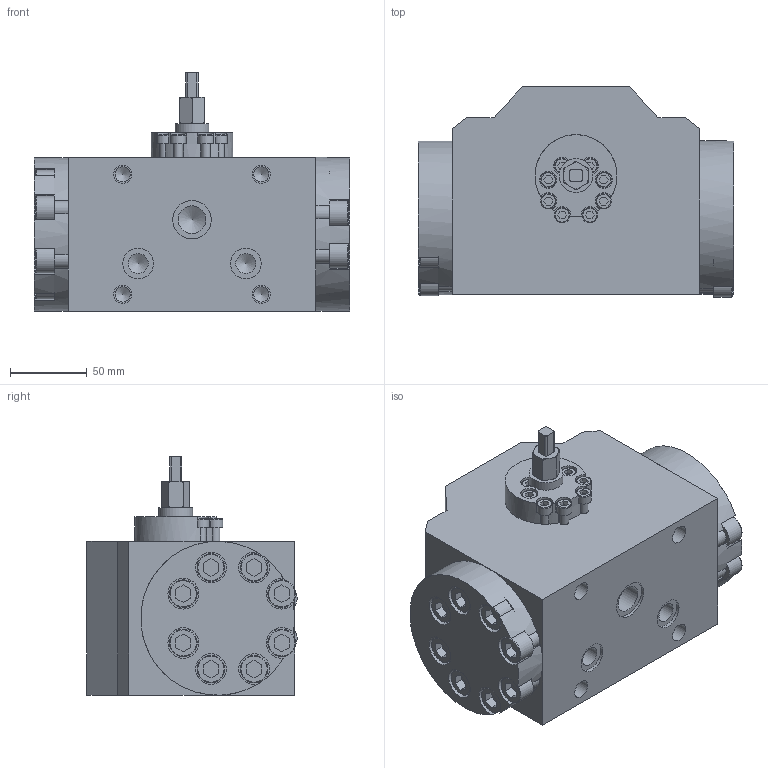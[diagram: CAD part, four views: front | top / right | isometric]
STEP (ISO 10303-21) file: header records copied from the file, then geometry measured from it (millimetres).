
FILE_DESCRIPTION(/* description */ (''),/* implementation_level */ '2;1');
FILE_NAME(/* name */ '7-3.prt.stp',/* time_stamp */ '2023-05-03T13:21:43+08:00',/* author */ (''),/* organization */ (''),/* preprocessor_version */ 'ST-DEVELOPER v16.7',/* originating_system */ 'SIEMENS PLM Software NX 12.0',/* authorisation */ '');
FILE_SCHEMA (('AUTOMOTIVE_DESIGN { 1 0 10303 214 3 1 1 1 }'));
Length unit declared in the file: millimetre
Products named in the file (1): 7-3
Bounding box: 205 x 136.65 x 155 mm (x, y, z)
Volume: 2341829.6 mm3; surface area: 263841.9 mm2
Topology: 31 solids, 31 shells, 689 faces, 1702 edges, 1118 vertices
Faces by surface type: plane 401, cylinder 197, cone 55, torus 36
Full cylindrical faces by diameter (mm): 5 x8, 6 x8, 7 x2, 10 x12, 10.2 x16, 11 x2, 12 x20, 13 x2, 14 x12, 18 x17, 20 x12, 22 x1, 25 x1
Entity records: 18924 total; most frequent: CARTESIAN_POINT 3277, DIRECTION 3260, ORIENTED_EDGE 2756, EDGE_CURVE 1378, AXIS2_PLACEMENT_3D 1216, VERTEX_POINT 1041, EDGE_LOOP 1026, LINE 828
